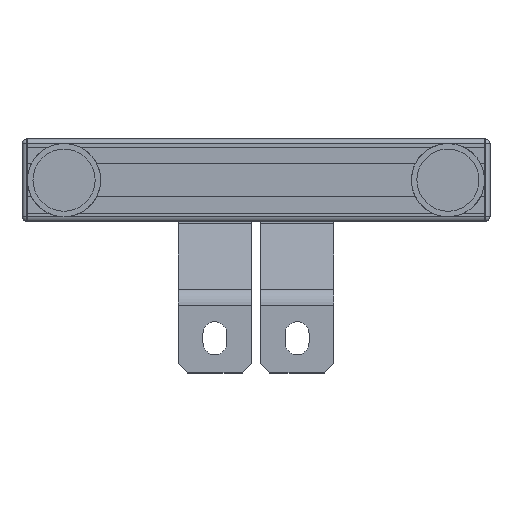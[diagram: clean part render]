
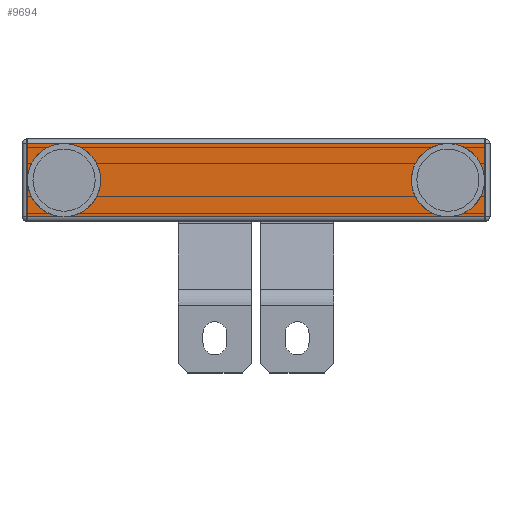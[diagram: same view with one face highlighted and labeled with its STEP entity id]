
A CAD part, front view. The second image highlights one B-rep face of the part: STEP entity #9694.
In plain terms, the highlighted planar face has unit normal (0, -1, 0).
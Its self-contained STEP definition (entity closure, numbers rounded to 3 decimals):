
#53 = EDGE_LOOP ( 'NONE', ( #1271, #9891, #7474, #8276 ) ) ;
#217 = DIRECTION ( 'NONE',  ( 0., 1., 0. ) ) ;
#549 = CARTESIAN_POINT ( 'NONE',  ( 125., -19., 20. ) ) ;
#642 = FACE_BOUND ( 'NONE', #7665, .T. ) ;
#719 = DIRECTION ( 'NONE',  ( -1., 0., 0. ) ) ;
#1188 = ORIENTED_EDGE ( 'NONE', *, *, #1684, .T. ) ;
#1271 = ORIENTED_EDGE ( 'NONE', *, *, #4397, .T. ) ;
#1505 = DIRECTION ( 'NONE',  ( 0., 0., 1. ) ) ;
#1506 = EDGE_CURVE ( 'NONE', #5109, #3653, #9057, .T. ) ;
#1522 = EDGE_CURVE ( 'NONE', #1796, #7089, #8248, .T. ) ;
#1555 = FACE_OUTER_BOUND ( 'NONE', #53, .T. ) ;
#1684 = EDGE_CURVE ( 'NONE', #6938, #6938, #2844, .T. ) ;
#1796 = VERTEX_POINT ( 'NONE', #2967 ) ;
#1892 = AXIS2_PLACEMENT_3D ( 'NONE', #4938, #2768, #8843 ) ;
#2053 = CARTESIAN_POINT ( 'NONE',  ( -125., -19., 0. ) ) ;
#2519 = DIRECTION ( 'NONE',  ( 0., 0., 1. ) ) ;
#2768 = DIRECTION ( 'NONE',  ( 0., 1., 0. ) ) ;
#2844 = CIRCLE ( 'NONE', #1892, 3.4 ) ;
#2874 = CARTESIAN_POINT ( 'NONE',  ( 125., -19., -20. ) ) ;
#2967 = CARTESIAN_POINT ( 'NONE',  ( 125., -19., 20. ) ) ;
#3319 = CARTESIAN_POINT ( 'NONE',  ( -105., -19., 0. ) ) ;
#3382 = AXIS2_PLACEMENT_3D ( 'NONE', #7718, #3855, #1505 ) ;
#3603 = VERTEX_POINT ( 'NONE', #9683 ) ;
#3620 = CARTESIAN_POINT ( 'NONE',  ( 125., -19., -20. ) ) ;
#3637 = EDGE_LOOP ( 'NONE', ( #8429 ) ) ;
#3653 = VERTEX_POINT ( 'NONE', #4675 ) ;
#3855 = DIRECTION ( 'NONE',  ( 0., 1., 0. ) ) ;
#4170 = VECTOR ( 'NONE', #719, 1000. ) ;
#4351 = DIRECTION ( 'NONE',  ( 0., 0., -1. ) ) ;
#4355 = DIRECTION ( 'NONE',  ( 0., 0., -1. ) ) ;
#4397 = EDGE_CURVE ( 'NONE', #7089, #3653, #8398, .T. ) ;
#4675 = CARTESIAN_POINT ( 'NONE',  ( -125., -19., -20. ) ) ;
#4819 = VECTOR ( 'NONE', #7637, 1000. ) ;
#4938 = CARTESIAN_POINT ( 'NONE',  ( 105., -19., 0. ) ) ;
#5109 = VERTEX_POINT ( 'NONE', #3620 ) ;
#5358 = AXIS2_PLACEMENT_3D ( 'NONE', #3319, #217, #2519 ) ;
#6071 = CARTESIAN_POINT ( 'NONE',  ( 105., -19., 3.4 ) ) ;
#6703 = LINE ( 'NONE', #549, #9223 ) ;
#6938 = VERTEX_POINT ( 'NONE', #6071 ) ;
#7089 = VERTEX_POINT ( 'NONE', #7206 ) ;
#7206 = CARTESIAN_POINT ( 'NONE',  ( -125., -19., 20. ) ) ;
#7429 = CARTESIAN_POINT ( 'NONE',  ( 125., -19., 20. ) ) ;
#7474 = ORIENTED_EDGE ( 'NONE', *, *, #8349, .F. ) ;
#7637 = DIRECTION ( 'NONE',  ( -1., 0., 0. ) ) ;
#7665 = EDGE_LOOP ( 'NONE', ( #1188 ) ) ;
#7718 = CARTESIAN_POINT ( 'NONE',  ( 125., -19., 0. ) ) ;
#8248 = LINE ( 'NONE', #7429, #4170 ) ;
#8276 = ORIENTED_EDGE ( 'NONE', *, *, #1522, .T. ) ;
#8349 = EDGE_CURVE ( 'NONE', #1796, #5109, #6703, .T. ) ;
#8398 = LINE ( 'NONE', #2053, #8951 ) ;
#8429 = ORIENTED_EDGE ( 'NONE', *, *, #9512, .T. ) ;
#8435 = PLANE ( 'NONE',  #3382 ) ;
#8843 = DIRECTION ( 'NONE',  ( 0., 0., 1. ) ) ;
#8951 = VECTOR ( 'NONE', #4351, 1000. ) ;
#9057 = LINE ( 'NONE', #2874, #4819 ) ;
#9142 = FACE_BOUND ( 'NONE', #3637, .T. ) ;
#9223 = VECTOR ( 'NONE', #4355, 1000. ) ;
#9512 = EDGE_CURVE ( 'NONE', #3603, #3603, #9733, .T. ) ;
#9683 = CARTESIAN_POINT ( 'NONE',  ( -105., -19., 3.4 ) ) ;
#9694 = ADVANCED_FACE ( 'NONE', ( #642, #9142, #1555 ), #8435, .F. ) ;
#9733 = CIRCLE ( 'NONE', #5358, 3.4 ) ;
#9891 = ORIENTED_EDGE ( 'NONE', *, *, #1506, .F. ) ;
